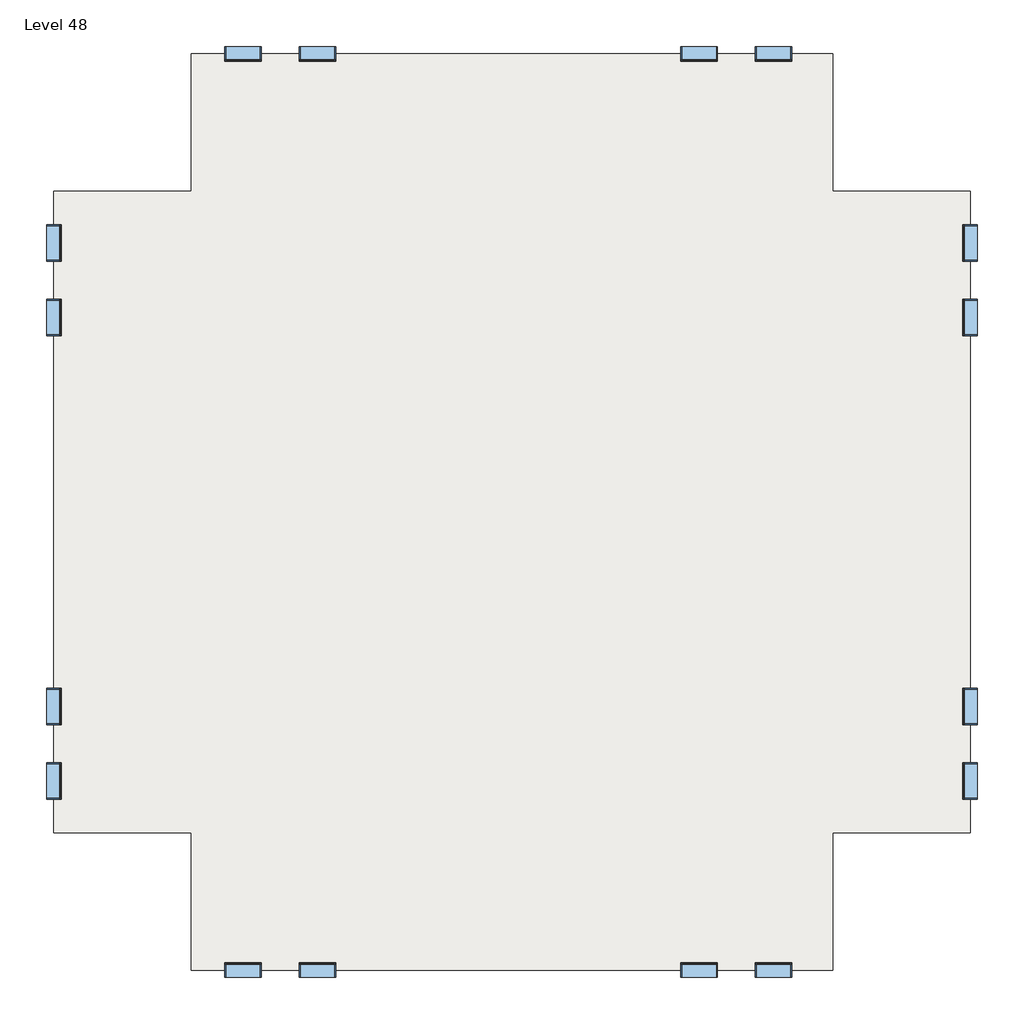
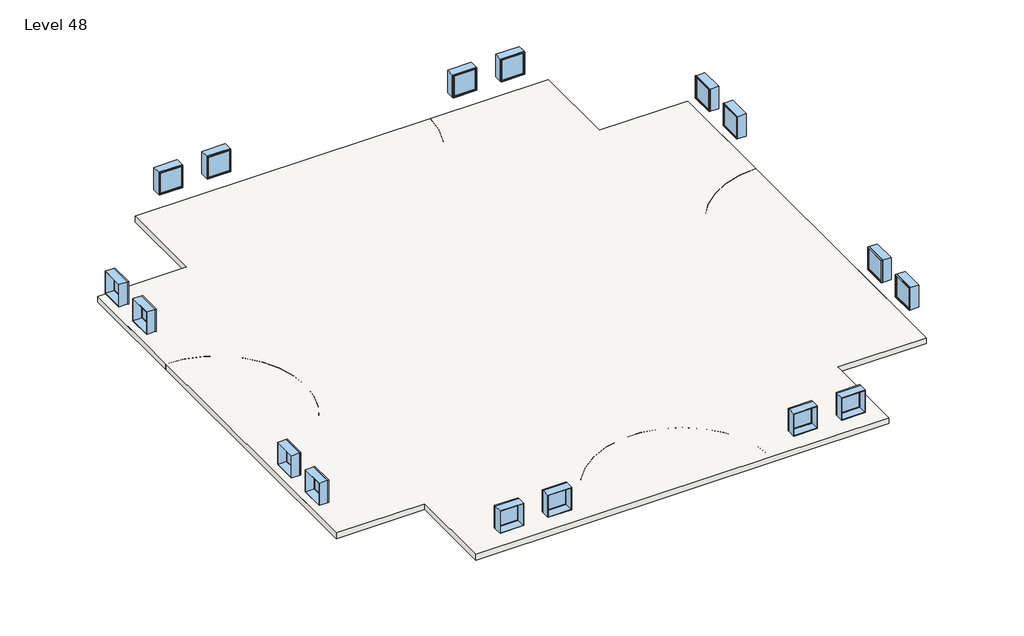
# One storey: 16 windows, 3 slabs.
"""IFC4 building model written with IfcOpenShell, lengths in millimetres."""

import ifcopenshell
import ifcopenshell.guid

model = None  # the IFC model being written
_history = None  # IfcOwnerHistory: only IFC2X3 demands one
_inside = {}  # id of a spatial element -> (the spatial element, [elements in it])
_under = {}  # id of a project, library or spatial element -> (it, [spatial elements below it])
_declared = {}  # id of a project -> (the project, [libraries it declares])
_typed = {}  # id of a type object -> (the type object, [elements of that type])
_made_of = {}  # id of a material, layer set ... -> (it, [elements and type objects made of it])


def new_model(schema):
    """Start an empty IFC model of exactly this schema.

    Asked for "IFC4X3", IfcOpenShell would pick the latest addendum, in which some entities
    have other attributes; the version numbers below select the first issue.
    IFC2X3 requires an IfcOwnerHistory on every rooted entity: one is made here for all.
    """
    global model, _history
    if schema == "IFC4X3":
        model = ifcopenshell.file(schema_version=(4, 3, 0, 0))
    else:
        model = ifcopenshell.file(schema=schema)
    _inside.clear()
    _under.clear()
    _declared.clear()
    _typed.clear()
    _made_of.clear()
    _history = None
    if model.schema == "IFC2X3":
        org = make("IfcOrganization", Name="unknown")
        user = make(
            "IfcPersonAndOrganization",
            ThePerson=make("IfcPerson", FamilyName="unknown"),
            TheOrganization=org,
        )
        app = make(
            "IfcApplication",
            ApplicationDeveloper=org,
            Version="unknown",
            ApplicationFullName="unknown",
            ApplicationIdentifier="unknown",
        )
        _history = make(
            "IfcOwnerHistory",
            OwningUser=user,
            OwningApplication=app,
            ChangeAction="ADDED",
            CreationDate=0,
        )
    return model


def make(cls, **values):
    """One entity of the class cls with the attributes given. An attribute that is None is left unset."""
    return model.create_entity(
        cls, **{name: value for name, value in values.items() if value is not None}
    )


def rooted(cls, **values):
    """An entity with a GlobalId (a new one), such as an element, a storey or a relation."""
    return make(cls, GlobalId=ifcopenshell.guid.new(), OwnerHistory=_history, **values)


def si_unit(unit_type, name, prefix=None):
    """IfcSIUnit, for example si_unit("LENGTHUNIT", "METRE", prefix="MILLI")."""
    return make("IfcSIUnit", UnitType=unit_type, Prefix=prefix, Name=name)


def assignment(units):
    """IfcUnitAssignment: the units of a project."""
    return None if units is None else make("IfcUnitAssignment", Units=units)


def point(xyz):
    """IfcCartesianPoint."""
    return None if xyz is None else make("IfcCartesianPoint", Coordinates=xyz)


def direction(xyz):
    """IfcDirection."""
    return None if xyz is None else make("IfcDirection", DirectionRatios=xyz)


def frame(location, z_axis=None, x_axis=None):
    """IfcAxis2Placement3D, a coordinate frame: its origin and axes. An axis left out is left unset."""
    return make(
        "IfcAxis2Placement3D",
        Location=point(location),
        Axis=direction(z_axis),
        RefDirection=direction(x_axis),
    )


def frame_2d(location, x_axis=None):
    """IfcAxis2Placement2D, a coordinate frame in the plane: its origin and x axis."""
    return make(
        "IfcAxis2Placement2D", Location=point(location), RefDirection=direction(x_axis)
    )


def origin():
    """The frame at (0, 0, 0) with its axes left unset."""
    return frame((0.0, 0.0, 0.0))


def place(relative_to, where):
    """IfcLocalPlacement: puts the frame where relative to a parent placement (None: the world)."""
    return make(
        "IfcLocalPlacement", PlacementRelTo=relative_to, RelativePlacement=where
    )


def context(
    kind, dimensions, precision=None, world=None, true_north=None, identifier=None
):
    """IfcGeometricRepresentationContext, for example the 3D "Model" context."""
    return make(
        "IfcGeometricRepresentationContext",
        ContextIdentifier=identifier,
        ContextType=kind,
        CoordinateSpaceDimension=dimensions,
        Precision=precision,
        WorldCoordinateSystem=world,
        TrueNorth=true_north,
    )


def project(units=None, contexts=None):
    """IfcProject with its units and contexts."""
    return rooted(
        "IfcProject",
        Name="project",
        RepresentationContexts=contexts,
        UnitsInContext=assignment(units),
    )


def spatial(cls, under=None, at=None, **own):
    """A site, building, storey or space (cls), placed at a placement, below another one or the project."""
    s = rooted(cls, ObjectPlacement=at, **own)
    if under is not None:
        _under.setdefault(under.id(), (under, []))[1].append(s)
    return s


def polyline(points):
    """IfcPolyline through the points."""
    return make("IfcPolyline", Points=[point(p) for p in points])


def circle_curve(where, radius):
    """IfcCircle in the frame where."""
    return make("IfcCircle", Position=where, Radius=radius)


def trimmed(basis, trim1, trim2, sense, master):
    """IfcTrimmedCurve: the piece of a basis curve between two trims."""
    return make(
        "IfcTrimmedCurve",
        BasisCurve=basis,
        Trim1=trim1,
        Trim2=trim2,
        SenseAgreement=sense,
        MasterRepresentation=master,
    )


def segment(curve, same_sense, transition):
    """IfcCompositeCurveSegment."""
    return make(
        "IfcCompositeCurveSegment",
        Transition=transition,
        SameSense=same_sense,
        ParentCurve=curve,
    )


def composite_curve(segments, self_intersect=None):
    """IfcCompositeCurve: segments joined end to end."""
    return make("IfcCompositeCurve", Segments=segments, SelfIntersect=self_intersect)


def outline(outer, holes=None, kind="AREA"):
    """IfcArbitraryClosedProfileDef: a profile drawn as a closed curve; with holes, ...WithVoids."""
    if holes is None:
        return make("IfcArbitraryClosedProfileDef", ProfileType=kind, OuterCurve=outer)
    return make(
        "IfcArbitraryProfileDefWithVoids",
        ProfileType=kind,
        OuterCurve=outer,
        InnerCurves=holes,
    )


def extrude(swept, where, along, depth):
    """IfcExtrudedAreaSolid: the profile swept, set in the frame where, extruded along a direction by depth."""
    return make(
        "IfcExtrudedAreaSolid",
        SweptArea=swept,
        Position=where,
        ExtrudedDirection=direction(along),
        Depth=depth,
    )


def shape(context_of_items, identifier, shape_type, items):
    """IfcShapeRepresentation: the items that make up one representation, for example the "Body"."""
    return make(
        "IfcShapeRepresentation",
        ContextOfItems=context_of_items,
        RepresentationIdentifier=identifier,
        RepresentationType=shape_type,
        Items=items,
    )


def source(mapping_origin, context_of_items, identifier, shape_type, items):
    """IfcRepresentationMap: a shape defined once, which mapped items show again and again."""
    return make(
        "IfcRepresentationMap",
        MappingOrigin=mapping_origin,
        MappedRepresentation=shape(context_of_items, identifier, shape_type, items),
    )


def transform(
    local_origin,
    x_axis=None,
    y_axis=None,
    z_axis=None,
    scale=None,
    scale2=None,
    scale3=None,
    uniform=True,
):
    """IfcCartesianTransformationOperator3D, or its non-uniform kind. x_axis, y_axis, z_axis: its Axis1, 2, 3."""
    if uniform:
        return make(
            "IfcCartesianTransformationOperator3D",
            Axis1=direction(x_axis),
            Axis2=direction(y_axis),
            LocalOrigin=point(local_origin),
            Scale=scale,
            Axis3=direction(z_axis),
        )
    return make(
        "IfcCartesianTransformationOperator3DnonUniform",
        Axis1=direction(x_axis),
        Axis2=direction(y_axis),
        LocalOrigin=point(local_origin),
        Scale=scale,
        Axis3=direction(z_axis),
        Scale2=scale2,
        Scale3=scale3,
    )


def mapped(mapping_source, mapping_target):
    """IfcMappedItem: shows the shape of a source again, moved by a transform."""
    return make(
        "IfcMappedItem", MappingSource=mapping_source, MappingTarget=mapping_target
    )


def made_of(thing, what):
    """Note that an element or type object is made of a material, layer set ...; save() writes the relation."""
    if what is not None:
        _made_of.setdefault(what.id(), (what, []))[1].append(thing)
    return thing


def element(
    cls,
    number,
    at=None,
    inside=None,
    cuts=None,
    type_object=None,
    material=None,
    context=None,
    identifier="Body",
    shape_type=None,
    held_by="IfcProductDefinitionShape",
    body=None,
    shapes=None,
    **own,
):
    """One element of the class cls, such as IfcWall. Its Tag is "e" and its number.

    at: its placement. inside: the storey or other place that contains it. cuts: it is an
    opening in that element (IfcRelVoidsElement). A single representation is given by context,
    identifier, shape_type and body (its items); several are given by shapes. held_by: the class
    of the entity that holds the representations. save() writes the other relations.
    """
    e = rooted(cls, Tag="e%d" % number, ObjectPlacement=at, **own)
    if body is not None:
        shapes = [shape(context, identifier, shape_type, body)]
    if shapes is not None:
        e.Representation = make(held_by, Representations=shapes)
    if inside is not None:
        _inside.setdefault(inside.id(), (inside, []))[1].append(e)
    if cuts is not None:
        rooted(
            "IfcRelVoidsElement", RelatingBuildingElement=cuts, RelatedOpeningElement=e
        )
    if type_object is not None:
        _typed.setdefault(type_object.id(), (type_object, []))[1].append(e)
    return made_of(e, material)


def aggregate(whole, parts):
    """IfcRelAggregates: a whole, such as a stair, and the parts it consists of."""
    return rooted("IfcRelAggregates", RelatingObject=whole, RelatedObjects=parts)


def save(model, path):
    """Write the relations noted so far, then the file.

    IfcRelAggregates (storeys below a building ...), IfcRelContainedInSpatialStructure (elements
    in a storey), IfcRelDefinesByType, IfcRelAssociatesMaterial and IfcRelDeclares: one each for
    every whole, place, type object, material and project.
    """
    for whole, parts in _under.values():
        aggregate(whole, parts)
    for where, things in _inside.values():
        rooted(
            "IfcRelContainedInSpatialStructure",
            RelatedElements=things,
            RelatingStructure=where,
        )
    for kind, things in _typed.values():
        rooted("IfcRelDefinesByType", RelatedObjects=things, RelatingType=kind)
    for what, things in _made_of.values():
        rooted("IfcRelAssociatesMaterial", RelatedObjects=things, RelatingMaterial=what)
    for by, libraries in _declared.values():
        rooted("IfcRelDeclares", RelatingContext=by, RelatedDefinitions=libraries)
    model.write(path)


def window_d0035ecf(model_context):
    return source(origin(), model_context, "Body", "SweptSolid", [
        extrude(outline(polyline([(508.0, 200.025), (-584.2, 200.025), (-584.2, 212.725), (508.0, 212.725), (508.0, 200.025)])), frame((0.0, 0.0, 977.9), z_axis=(0.0, 0.0, 1.0), x_axis=(1.0, 0.0, 0.0)), (0.0, 0.0, 1.0), 1092.2),
        extrude(outline(polyline([(2114.55, -628.65), (933.45, -628.65), (933.45, 552.45), (2114.55, 552.45), (2114.55, -628.65)]), holes=[polyline([(2070.1, -584.2), (2070.1, 508.0), (977.9, 508.0), (977.9, -584.2), (2070.1, -584.2)])]), frame((0.0, 184.15, 0.0), z_axis=(0.0, 1.0, 0.0), x_axis=(0.0, 0.0, 1.0)), (0.0, 0.0, 1.0), 44.45),
        extrude(outline(polyline([(2133.6, -647.7), (914.4, -647.7), (914.4, 571.5), (2133.6, 571.5), (2133.6, -647.7)]), holes=[polyline([(2101.85, -615.95), (2101.85, 539.75), (946.15, 539.75), (946.15, -615.95), (2101.85, -615.95)])]), frame((0.0, -247.65, 0.0), z_axis=(0.0, 1.0, 0.0), x_axis=(0.0, 0.0, 1.0)), (0.0, 0.0, 1.0), 431.8),
        extrude(outline(polyline([(2133.6, 571.5), (2133.6, -647.7), (914.4, -647.7), (914.4, 571.5), (2133.6, 571.5)]), holes=[polyline([(2114.55, 552.45), (933.45, 552.45), (933.45, -628.65), (2114.55, -628.65), (2114.55, 552.45)])]), frame((0.0, 184.15, 0.0), z_axis=(0.0, 1.0, 0.0), x_axis=(0.0, 0.0, 1.0)), (0.0, 0.0, 1.0), 63.5),
    ])


def window_d434eb62(model_context):
    return source(origin(), model_context, "Body", "SweptSolid", [
        extrude(outline(polyline([(508.0, -200.025), (508.0, -212.725), (-584.2, -212.725), (-584.2, -200.025), (508.0, -200.025)])), frame((0.0, 0.0, 977.9), z_axis=(0.0, 0.0, 1.0), x_axis=(1.0, 0.0, 0.0)), (0.0, 0.0, 1.0), 1092.2),
        extrude(outline(polyline([(2114.55, -628.65), (933.45, -628.65), (933.45, 552.45), (2114.55, 552.45), (2114.55, -628.65)]), holes=[polyline([(2070.1, -584.2), (2070.1, 508.0), (977.9, 508.0), (977.9, -584.2), (2070.1, -584.2)])]), frame((0.0, -228.6, 0.0), z_axis=(0.0, 1.0, 0.0), x_axis=(0.0, 0.0, 1.0)), (0.0, 0.0, 1.0), 44.45),
        extrude(outline(polyline([(2133.6, -647.7), (914.4, -647.7), (914.4, 571.5), (2133.6, 571.5), (2133.6, -647.7)]), holes=[polyline([(2101.85, -615.95), (2101.85, 539.75), (946.15, 539.75), (946.15, -615.95), (2101.85, -615.95)])]), frame((0.0, -184.15, 0.0), z_axis=(0.0, 1.0, 0.0), x_axis=(0.0, 0.0, 1.0)), (0.0, 0.0, 1.0), 431.8),
        extrude(outline(polyline([(2133.6, 571.5), (2133.6, -647.7), (914.4, -647.7), (914.4, 571.5), (2133.6, 571.5)]), holes=[polyline([(2114.55, 552.45), (933.45, 552.45), (933.45, -628.65), (2114.55, -628.65), (2114.55, 552.45)])]), frame((0.0, -247.65, 0.0), z_axis=(0.0, 1.0, 0.0), x_axis=(0.0, 0.0, 1.0)), (0.0, 0.0, 1.0), 63.5),
    ])


model = new_model("IFC4")

# Units and contexts
model_context = context("Model", 3, world=origin())
ifc_project = project(units=[si_unit("LENGTHUNIT", "METRE", prefix="MILLI")], contexts=[model_context])

# Site, building, storey
site = spatial("IfcSite", under=ifc_project)
building = spatial("IfcBuilding", under=site)
storey = spatial("IfcBuildingStorey", under=building, Name="Level 48", Elevation=143256.0)

# Slabs
placement = place(None, origin())
element("IfcSlab", 1, ObjectType="Generic - 12\"", at=placement, inside=storey, context=model_context, shape_type="SweptSolid", body=[
    extrude(outline(polyline([(-7150.3629456, 4479.6634547), (-7150.3629456, 9051.6634547), (14185.6370544, 9051.6634547), (14185.6370544, 4479.6634547), (18757.6370544, 4479.6634547), (18757.6370544, -16856.3365453), (14185.6370544, -16856.3365453), (14185.6370544, -21428.3365453), (-7150.3629456, -21428.3365453), (-7150.3629456, -16856.3365453), (-11722.3629456, -16856.3365453), (-11722.3629456, 4479.6634547), (-7150.3629456, 4479.6634547)])), frame((0.0, 0.0, 142951.2), z_axis=(0.0, 0.0, 1.0), x_axis=(1.0, 0.0, 0.0)), (0.0, 0.0, 1.0), 304.8),
])
element("IfcSlab", 2, ObjectType="Generic - 12\"", at=placement, inside=storey, context=model_context, shape_type="SweptSolid", body=[
    extrude(outline(polyline([(-7150.3629456, 4479.6634547), (-7150.3629456, 9051.6634547), (14185.6370544, 9051.6634547), (14185.6370544, 4479.6634547), (18757.6370544, 4479.6634547), (18757.6370544, -16856.3365453), (14185.6370544, -16856.3365453), (14185.6370544, -21428.3365453), (-7150.3629456, -21428.3365453), (-7150.3629456, -16856.3365453), (-11722.3629456, -16856.3365453), (-11722.3629456, 4479.6634547), (-7150.3629456, 4479.6634547)])), frame((0.0, 0.0, 142951.2), z_axis=(0.0, 0.0, 1.0), x_axis=(1.0, 0.0, 0.0)), (0.0, 0.0, 1.0), 304.8),
])
element("IfcSlab", 3, ObjectType="Generic - 12\"", at=placement, inside=storey, context=model_context, shape_type="SweptSolid", body=[
    extrude(outline(composite_curve([segment(polyline([(-7150.3629456, 4479.6634547), (-7150.3629456, 9051.6634547), (-1054.3629456, 9051.6634547)]), True, "CONTINUOUS"), segment(trimmed(circle_curve(frame_2d((3517.6370544, 9051.6634547)), 4572.0), [point((-1054.3629456, 9051.6634547))], [point((8089.6370544, 9051.6634547))], True, "CARTESIAN"), True, "CONTINUOUS"), segment(polyline([(8089.6370544, 9051.6634547), (14185.6370544, 9051.6634547), (14185.6370544, 4479.6634547), (18757.6370544, 4479.6634547), (18757.6370544, -1616.3365453)]), True, "CONTINUOUS"), segment(trimmed(circle_curve(frame_2d((18757.6370544, -6188.3365453)), 4572.0), [point((18757.6370544, -1616.3365453))], [point((18757.6370544, -10760.3365453))], True, "CARTESIAN"), True, "CONTINUOUS"), segment(polyline([(18757.6370544, -10760.3365453), (18757.6370544, -16856.3365453), (14185.6370544, -16856.3365453), (14185.6370544, -21428.3365453), (8089.6370544, -21428.3365453)]), True, "CONTINUOUS"), segment(trimmed(circle_curve(frame_2d((3517.6370544, -21428.3365453)), 4572.0), [point((8089.6370544, -21428.3365453))], [point((-1054.3629456, -21428.3365453))], True, "CARTESIAN"), True, "CONTINUOUS"), segment(polyline([(-1054.3629456, -21428.3365453), (-7150.3629456, -21428.3365453), (-7150.3629456, -16856.3365453), (-11722.3629456, -16856.3365453), (-11722.3629456, -10760.3365453)]), True, "CONTINUOUS"), segment(trimmed(circle_curve(frame_2d((-11722.3629456, -6188.3365453)), 4572.0), [point((-11722.3629456, -10760.3365453))], [point((-11722.3629456, -1616.3365453))], True, "CARTESIAN"), True, "CONTINUOUS"), segment(polyline([(-11722.3629456, -1616.3365453), (-11722.3629456, 4479.6634547), (-7150.3629456, 4479.6634547)]), True, "CONTINUOUS")], self_intersect=False)), frame((0.0, 0.0, 142951.2), z_axis=(0.0, 0.0, 1.0), x_axis=(1.0, 0.0, 0.0)), (0.0, 0.0, 1.0), 304.8),
])

# Windows
window_shape = window_d0035ecf(model_context)
element("IfcWindow", 4, ObjectType="Fixed : 48\" x 48\"", at=placement, inside=storey, context=model_context, shape_type="MappedRepresentation", body=[
    mapped(window_shape, transform((-11719.1879456, 247.3884547, 143256.0), x_axis=(0.0, -1.0, 0.0), y_axis=(1.0, 0.0, 0.0), z_axis=(0.0, 0.0, 1.0))),
])
element("IfcWindow", 5, ObjectType="Fixed : 48\" x 48\"", at=placement, inside=storey, context=model_context, shape_type="MappedRepresentation", body=[
    mapped(window_shape, transform((-5469.1993281, 9048.4884547, 143256.0), x_axis=(-1.0, 0.0, 0.0), y_axis=(0.0, -1.0, 0.0), z_axis=(0.0, 0.0, 1.0))),
])
element("IfcWindow", 6, ObjectType="Fixed : 48\" x 48\"", at=placement, inside=storey, context=model_context, shape_type="MappedRepresentation", body=[
    mapped(window_shape, transform((-11719.1879456, -15175.1729277, 143256.0), x_axis=(0.0, -1.0, 0.0), y_axis=(1.0, 0.0, 0.0), z_axis=(0.0, 0.0, 1.0))),
])
element("IfcWindow", 7, ObjectType="Fixed : 48\" x 48\"", at=placement, inside=storey, context=model_context, shape_type="MappedRepresentation", body=[
    mapped(window_shape, transform((-2918.0879456, -21425.1615453, 143256.0), x_axis=(1.0, 0.0, 0.0), y_axis=(0.0, 1.0, 0.0), z_axis=(0.0, 0.0, 1.0))),
])
element("IfcWindow", 8, ObjectType="Fixed : 48\" x 48\"", at=placement, inside=storey, context=model_context, shape_type="MappedRepresentation", body=[
    mapped(window_shape, transform((18754.4620544, 2798.4998372, 143256.0), x_axis=(0.0, 1.0, 0.0), y_axis=(-1.0, 0.0, 0.0), z_axis=(0.0, 0.0, 1.0))),
])
element("IfcWindow", 9, ObjectType="Fixed : 48\" x 48\"", at=placement, inside=storey, context=model_context, shape_type="MappedRepresentation", body=[
    mapped(window_shape, transform((9705.7120544, 9048.4884547, 143256.0), x_axis=(-1.0, 0.0, 0.0), y_axis=(0.0, -1.0, 0.0), z_axis=(0.0, 0.0, 1.0))),
])
element("IfcWindow", 10, ObjectType="Fixed : 48\" x 48\"", at=placement, inside=storey, context=model_context, shape_type="MappedRepresentation", body=[
    mapped(window_shape, transform((18754.4620544, -12624.0615453, 143256.0), x_axis=(0.0, 1.0, 0.0), y_axis=(-1.0, 0.0, 0.0), z_axis=(0.0, 0.0, 1.0))),
])
element("IfcWindow", 11, ObjectType="Fixed : 48\" x 48\"", at=placement, inside=storey, context=model_context, shape_type="MappedRepresentation", body=[
    mapped(window_shape, transform((12256.8234368, -21425.1615453, 143256.0), x_axis=(1.0, 0.0, 0.0), y_axis=(0.0, 1.0, 0.0), z_axis=(0.0, 0.0, 1.0))),
])
window_2_shape = window_d434eb62(model_context)
element("IfcWindow", 12, ObjectType="Fixed : 48\" x 48\"", at=placement, inside=storey, context=model_context, shape_type="MappedRepresentation", body=[
    mapped(window_2_shape, transform((-11719.1879456, 2798.4998372, 143256.0), x_axis=(0.0, 1.0, 0.0), y_axis=(-1.0, 0.0, 0.0), z_axis=(0.0, 0.0, 1.0))),
])
element("IfcWindow", 13, ObjectType="Fixed : 48\" x 48\"", at=placement, inside=storey, context=model_context, shape_type="MappedRepresentation", body=[
    mapped(window_2_shape, transform((-2918.0879456, 9048.4884547, 143256.0), x_axis=(1.0, 0.0, 0.0), y_axis=(0.0, 1.0, 0.0), z_axis=(0.0, 0.0, 1.0))),
])
element("IfcWindow", 14, ObjectType="Fixed : 48\" x 48\"", at=placement, inside=storey, context=model_context, shape_type="MappedRepresentation", body=[
    mapped(window_2_shape, transform((-11719.1879456, -12624.0615453, 143256.0), x_axis=(0.0, 1.0, 0.0), y_axis=(-1.0, 0.0, 0.0), z_axis=(0.0, 0.0, 1.0))),
])
element("IfcWindow", 15, ObjectType="Fixed : 48\" x 48\"", at=placement, inside=storey, context=model_context, shape_type="MappedRepresentation", body=[
    mapped(window_2_shape, transform((-5469.1993281, -21425.1615453, 143256.0), x_axis=(-1.0, 0.0, 0.0), y_axis=(0.0, -1.0, 0.0), z_axis=(0.0, 0.0, 1.0))),
])
element("IfcWindow", 16, ObjectType="Fixed : 48\" x 48\"", at=placement, inside=storey, context=model_context, shape_type="MappedRepresentation", body=[
    mapped(window_2_shape, transform((18754.4620544, 247.3884547, 143256.0), x_axis=(0.0, -1.0, 0.0), y_axis=(1.0, 0.0, 0.0), z_axis=(0.0, 0.0, 1.0))),
])
element("IfcWindow", 17, ObjectType="Fixed : 48\" x 48\"", at=placement, inside=storey, context=model_context, shape_type="MappedRepresentation", body=[
    mapped(window_2_shape, transform((12256.8234368, 9048.4884547, 143256.0), x_axis=(1.0, 0.0, 0.0), y_axis=(0.0, 1.0, 0.0), z_axis=(0.0, 0.0, 1.0))),
])
element("IfcWindow", 18, ObjectType="Fixed : 48\" x 48\"", at=placement, inside=storey, context=model_context, shape_type="MappedRepresentation", body=[
    mapped(window_2_shape, transform((18754.4620544, -15175.1729277, 143256.0), x_axis=(0.0, -1.0, 0.0), y_axis=(1.0, 0.0, 0.0), z_axis=(0.0, 0.0, 1.0))),
])
element("IfcWindow", 19, ObjectType="Fixed : 48\" x 48\"", at=placement, inside=storey, context=model_context, shape_type="MappedRepresentation", body=[
    mapped(window_2_shape, transform((9705.7120544, -21425.1615453, 143256.0), x_axis=(-1.0, 0.0, 0.0), y_axis=(0.0, -1.0, 0.0), z_axis=(0.0, 0.0, 1.0))),
])

save(model, "model.ifc")
